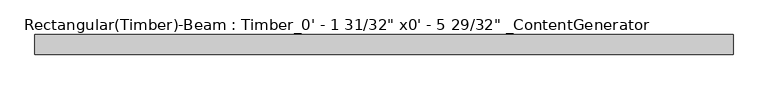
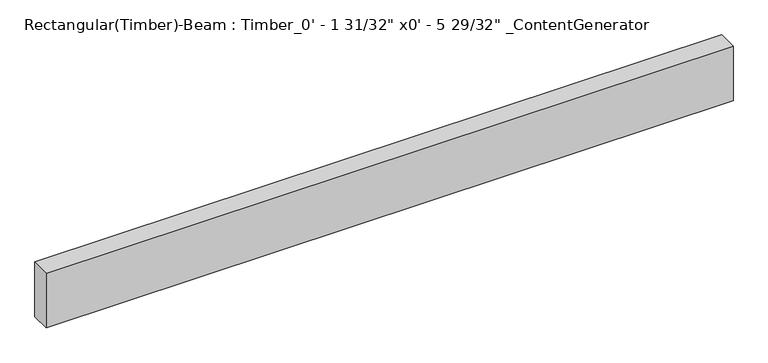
"""IFC4 building model written with IfcOpenShell, lengths in millimetres: beam geometry."""

from ifc_helpers import new_model, si_unit, frame, origin, place, context, project, spatial, polyline, outline, extrude, source, transform, mapped, element, save


def beam_8732290f(model_context):
    return source(origin(), model_context, "Body", "SweptSolid", [
        extrude(outline(polyline([(901.695, 25.4), (901.695, -25.4), (-901.695, -25.4), (-901.695, 25.4), (901.695, 25.4)])), frame((0.0, 0.0, -76.2), z_axis=(0.0, 0.0, 1.0), x_axis=(1.0, 0.0, 0.0)), (0.0, 0.0, 1.0), 152.4),
    ])


if __name__ == "__main__":
    model = new_model("IFC4")
    model_context = context("Model", 3, world=origin())
    ifc_project = project(units=[si_unit("LENGTHUNIT", "METRE", prefix="MILLI")], contexts=[model_context])
    site = spatial("IfcSite", under=ifc_project)
    building = spatial("IfcBuilding", under=site)
    placement = place(None, origin())
    beam_shape = beam_8732290f(model_context)
    element("IfcBeam", 1, ObjectType="Rectangular(Timber)-Beam : Timber_0' - 1 31/32\" x0' - 5 29/32\" _ContentGenerator", at=placement, inside=building, context=model_context, shape_type="MappedRepresentation", body=[
        mapped(beam_shape, transform((0.0, 0.0, 0.0), x_axis=(1.0, 0.0, 0.0), y_axis=(0.0, 1.0, 0.0), z_axis=(0.0, 0.0, 1.0))),
    ])
    save(model, "model.ifc")
